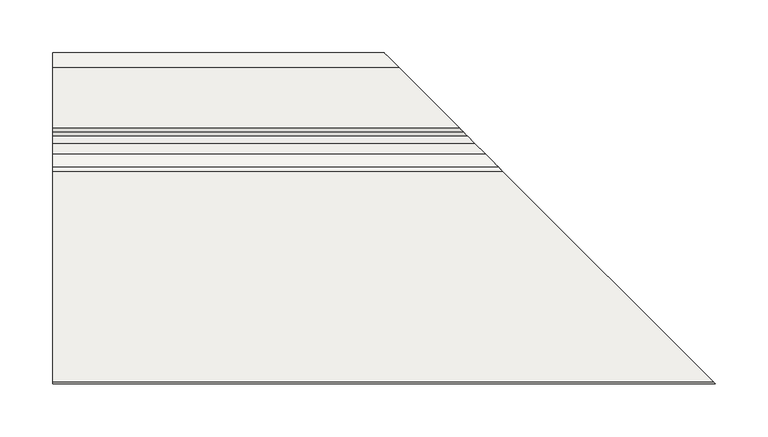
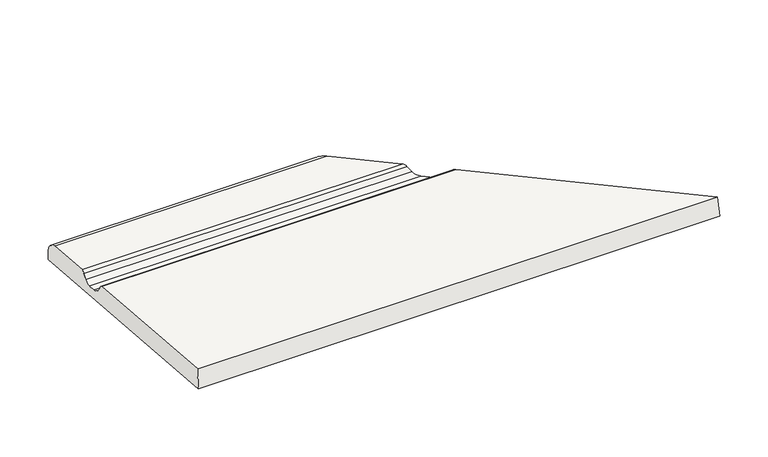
"""IFC4 building model written with IfcOpenShell, lengths in millimetres: slab geometry, ROSA GRES_647 (corte) : Pieza 647_Tresor_Java_Anti-Slip."""

from ifc_helpers import new_model, si_unit, frame, origin, place, context, project, spatial, polyline, circle_curve, ellipse_curve, source, transform, mapped, element, save
from ifc_brep_helpers import plane_surface, cylinder_surface, revolved_surface, advanced_brep


def slab_c6e3ce8d(model_context):
    return source(origin(), model_context, "Body", "AdvancedBrep", [
        advanced_brep(
        [(0.0, -312.4796595, 25.376745), (0.0, -310.5326103, 49.2976355), (0.0, -111.5789794, 33.1037353), (0.0, -108.1552944, 30.3907124), (0.0, -95.3021773, 18.9438117), (0.0, -85.1278688, 18.1402288), (0.0, -78.0293651, 21.9145702), (0.0, -74.4536279, 27.4207227), (0.0, -70.7377594, 29.7794499), (0.0, -13.5874413, 25.1276799), (0.0, -0.0186199, 8.4722336), (0.0, -0.7082203, 0.0), (313.7082203, -0.7082203, 0.0), (625.4796595, -312.4796595, 25.376745), (313.0186199, -0.0186199, 8.4722336), (326.5874413, -13.5874413, 25.1276799), (383.7377594, -70.7377594, 29.7794499), (424.5789794, -111.5789794, 33.1037353), (421.1552944, -108.1552944, 30.3907124), (623.5326103, -310.5326103, 49.2976355), (387.4536279, -74.4536279, 27.4207227), (391.0293651, -78.0293651, 21.9145702), (398.1278688, -85.1278688, 18.1402288), (408.3021773, -95.3021773, 18.9438117)],
        [
            (0, 1),
            (1, 2),
            (2, 3, circle_curve(frame((0.0, -112.7964417, 28.050603), z_axis=(-1.0, 0.0, 0.0), x_axis=(0.0, -1.0, 0.0)), 5.1977265)),
            (3, 4, circle_curve(frame((0.0, -93.0715977, 34.3879029), z_axis=(1.0, 0.0, 0.0), x_axis=(0.0, -1.0, 0.0)), 15.6043403)),
            (4, 5),
            (5, 6, circle_curve(frame((0.0, -84.3251343, 25.1928474), z_axis=(1.0, 0.0, 0.0), x_axis=(0.0, -1.0, 0.0)), 7.0981555)),
            (6, 7),
            (7, 8, circle_curve(frame((0.0, -70.0190016, 24.5408427), z_axis=(-1.0, 0.0, 0.0), x_axis=(0.0, -1.0, 0.0)), 5.2876855)),
            (8, 9),
            (9, 10, circle_curve(frame((0.0, -16.0756768, 9.2457383), z_axis=(-1.0, 0.0, 0.0), x_axis=(0.0, -1.0, 0.0)), 16.0756768)),
            (10, 11),
            (11, 0),
            (11, 12),
            (12, 13),
            (13, 0),
            (10, 14),
            (14, 12),
            (9, 15),
            (15, 14, ellipse_curve(frame((329.0756768, -16.0756768, 9.2457383), z_axis=(-0.7071067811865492, -0.7071067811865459, 0.0), x_axis=(-0.7071067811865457, 0.7071067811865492, 0.0)), 22.7344401, 16.0756768)),
            (8, 16),
            (16, 15),
            (2, 17),
            (17, 18, ellipse_curve(frame((425.7964417, -112.7964417, 28.050603), z_axis=(-0.7071067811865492, -0.7071067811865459, 0.0), x_axis=(-0.7071067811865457, 0.7071067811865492, 0.0)), 7.3506953, 5.1977265)),
            (18, 3),
            (1, 19),
            (19, 17),
            (13, 19),
            (7, 20),
            (20, 16, ellipse_curve(frame((383.0190016, -70.0190016, 24.5408427), z_axis=(-0.7071067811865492, -0.7071067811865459, 0.0), x_axis=(-0.7071067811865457, 0.7071067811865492, 0.0)), 7.4779166, 5.2876855)),
            (6, 21),
            (21, 20),
            (5, 22),
            (22, 21, ellipse_curve(frame((397.3251343, -84.3251343, 25.1928474), z_axis=(0.7071067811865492, 0.7071067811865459, 0.0), x_axis=(0.7071067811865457, -0.7071067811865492, 0.0)), 10.0383078, 7.0981555)),
            (4, 23),
            (23, 22),
            (18, 23, ellipse_curve(frame((406.0715977, -93.0715977, 34.3879029), z_axis=(0.7071067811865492, 0.7071067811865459, 0.0), x_axis=(0.7071067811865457, -0.7071067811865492, 0.0)), 22.0678697, 15.6043403)),
        ],
        [
            plane_surface(frame((0.0, 0.0, 0.0), z_axis=(-1.0, 0.0, 0.0), x_axis=(0.0, 0.0, 1.0))),
            plane_surface(frame((0.0, -312.4796595, 25.376745), z_axis=(0.0, -0.08112705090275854, -0.996703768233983), x_axis=(1.0, 0.0, 0.0))),
            plane_surface(frame((0.0, -0.7082203, 0.0), z_axis=(0.0, 0.9967037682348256, -0.08112705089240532), x_axis=(1.0, 0.0, 0.0))),
            cylinder_surface(frame((0.0, -16.0756768, 9.2457383), z_axis=(-1.0, 0.0, 0.0), x_axis=(0.0, -1.0, 0.0)), 16.0756768),
            plane_surface(frame((0.0, -13.5874413, 25.1276799), z_axis=(0.0, 0.08112705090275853, 0.996703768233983), x_axis=(1.0, 0.0, 0.0))),
            cylinder_surface(frame((0.0, -112.7964417, 28.050603), z_axis=(-1.0, 0.0, 0.0), x_axis=(0.0, -1.0, 0.0)), 5.1977265),
            plane_surface(frame((0.0, -111.5789794, 33.1037353), z_axis=(0.0, 0.0811270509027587, 0.996703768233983), x_axis=(1.0, 0.0, 0.0))),
            plane_surface(frame((0.0, -310.5326103, 49.2976355), z_axis=(0.0, -0.996703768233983, 0.08112705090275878), x_axis=(1.0, 0.0, 0.0))),
            cylinder_surface(frame((0.0, -70.0190016, 24.5408427), z_axis=(-1.0, 0.0, 0.0), x_axis=(0.0, -1.0, 0.0)), 5.2876855),
            plane_surface(frame((0.0, -74.4536279, 27.4207227), z_axis=(0.0, -0.8386705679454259, 0.5446390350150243), x_axis=(1.0, 0.0, 0.0))),
            revolved_surface(polyline([(404.4232898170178, -91.4232898, 25.1928474), (0.0, -91.4232898, 25.1928474)]), (0.0, -84.3251343, 25.1928474), (1.0, 0.0, 0.0)),
            plane_surface(frame((0.0, -85.1278688, 18.1402288), z_axis=(0.0, 0.07873637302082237, 0.9968954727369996), x_axis=(1.0, 0.0, 0.0))),
            revolved_surface(polyline([(421.6759380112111, -108.675938, 34.3879029), (0.0, -108.675938, 34.3879029)]), (0.0, -93.0715977, 34.3879029), (1.0, 0.0, 0.0)),
            plane_surface(frame((626.0, -313.0, 104.9871832), z_axis=(0.7071067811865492, 0.7071067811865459, 0.0), x_axis=(0.0, 0.0, -1.0))),
        ],
        [
            (0, [[1, 2, 3, 4, 5, 6, 7, 8, 9, 10, 11, 12]]),
            (1, [[13, 14, 15, -12]]),
            (2, [[16, 17, -13, -11]]),
            (3, [[18, 19, -16, -10]]),
            (4, [[20, 21, -18, -9]]),
            (5, [[22, 23, 24, -3]]),
            (6, [[25, 26, -22, -2]]),
            (7, [[-15, 27, -25, -1]]),
            (8, [[28, 29, -20, -8]]),
            (9, [[30, 31, -28, -7]]),
            (10, [[32, 33, -30, -6]]),
            (11, [[34, 35, -32, -5]]),
            (12, [[-24, 36, -34, -4]]),
            (13, [[-17, -19, -21, -29, -31, -33, -35, -36, -23, -26, -27, -14]]),
        ],
    ),
    ])


if __name__ == "__main__":
    model = new_model("IFC4")
    model_context = context("Model", 3, world=origin())
    ifc_project = project(units=[si_unit("LENGTHUNIT", "METRE", prefix="MILLI")], contexts=[model_context])
    site = spatial("IfcSite", under=ifc_project)
    building = spatial("IfcBuilding", under=site)
    placement = place(None, origin())
    slab_shape = slab_c6e3ce8d(model_context)
    element("IfcSlab", 1, ObjectType="ROSA GRES_647 (corte) : Pieza 647_Tresor_Java_Anti-Slip", at=placement, inside=building, context=model_context, shape_type="MappedRepresentation", body=[
        mapped(slab_shape, transform((0.0, 0.0, 0.0), x_axis=(1.0, 0.0, 0.0), y_axis=(0.0, 1.0, 0.0), z_axis=(0.0, 0.0, 1.0))),
    ])
    save(model, "model.ifc")
